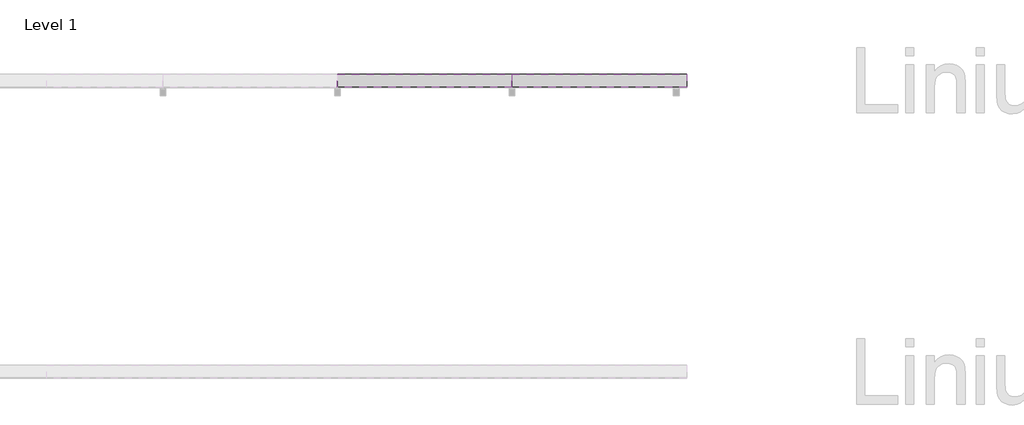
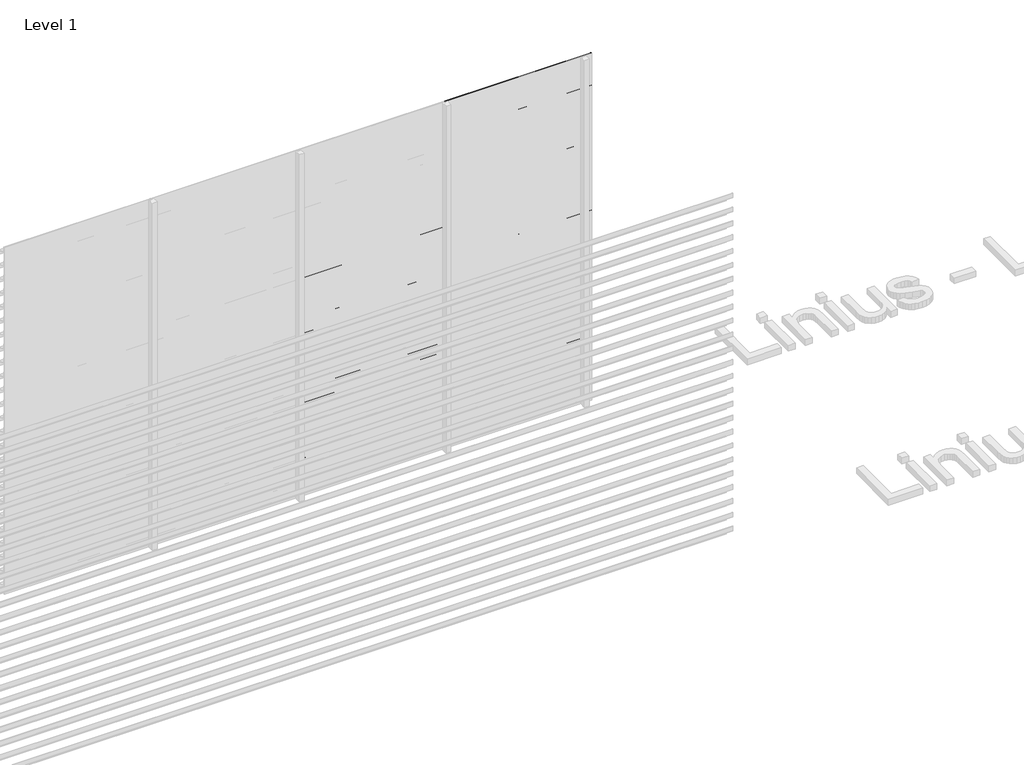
# One storey, part 23 of 46: 43 proxies.
"""IFC4 building model written with IfcOpenShell, lengths in millimetres."""

from ifc_helpers import new_model, si_unit, frame, origin, place, context, project, spatial, polyline, outline, extrude, element, save

model = new_model("IFC4")

# Units and contexts
model_context = context("Model", 3, world=origin())
ifc_project = project(units=[si_unit("LENGTHUNIT", "METRE", prefix="MILLI")], contexts=[model_context])

# Site, building, storey
site = spatial("IfcSite", under=ifc_project)
building = spatial("IfcBuilding", under=site)
storey = spatial("IfcBuildingStorey", under=building, Name="Level 1", Elevation=0.0)

# Proxies
placement = place(None, origin())
element("IfcBuildingElementProxy", 1, Name="Wall Sweeps", at=placement, inside=storey, context=model_context, shape_type="SweptSolid", body=[
    extrude(outline(polyline([(36573.0540136, 2920.0), (36573.0540136, 2880.0), (36571.0540136, 2881.349017), (36571.0540136, 2918.7258595), (36483.0540136, 2959.7609334), (36483.0540136, 3000.0), (36485.0540136, 3000.0), (36485.0540136, 2961.0350739), (36573.0540136, 2920.0)])), frame((5266.6208095, 0.0, 0.0), z_axis=(1.0, 0.0, 0.0), x_axis=(0.0, 1.0, 0.0)), (0.0, 0.0, 1.0), 1200.0000002),
])
element("IfcBuildingElementProxy", 2, Name="Wall Sweeps", at=placement, inside=storey, context=model_context, shape_type="SweptSolid", body=[
    extrude(outline(polyline([(36573.0540136, 2800.0), (36573.0540136, 2760.0), (36571.0540136, 2761.349017), (36571.0540136, 2798.7258595), (36483.0540136, 2839.7609334), (36483.0540136, 2880.0), (36485.0540136, 2880.0), (36485.0540136, 2841.0350739), (36573.0540136, 2800.0)])), frame((5266.6208095, 0.0, 0.0), z_axis=(1.0, 0.0, 0.0), x_axis=(0.0, 1.0, 0.0)), (0.0, 0.0, 1.0), 1200.0000002),
])
element("IfcBuildingElementProxy", 3, Name="Wall Sweeps", at=placement, inside=storey, context=model_context, shape_type="SweptSolid", body=[
    extrude(outline(polyline([(36573.0540136, 2680.0), (36573.0540136, 2640.0), (36571.0540136, 2641.349017), (36571.0540136, 2678.7258595), (36483.0540136, 2719.7609334), (36483.0540136, 2760.0), (36485.0540136, 2760.0), (36485.0540136, 2721.0350739), (36573.0540136, 2680.0)])), frame((5266.6208095, 0.0, 0.0), z_axis=(1.0, 0.0, 0.0), x_axis=(0.0, 1.0, 0.0)), (0.0, 0.0, 1.0), 1200.0000002),
])
element("IfcBuildingElementProxy", 4, Name="Wall Sweeps", at=placement, inside=storey, context=model_context, shape_type="SweptSolid", body=[
    extrude(outline(polyline([(36573.0540136, 2560.0), (36573.0540136, 2520.0), (36571.0540136, 2521.349017), (36571.0540136, 2558.7258595), (36483.0540136, 2599.7609334), (36483.0540136, 2640.0), (36485.0540136, 2640.0), (36485.0540136, 2601.0350739), (36573.0540136, 2560.0)])), frame((5266.6208095, 0.0, 0.0), z_axis=(1.0, 0.0, 0.0), x_axis=(0.0, 1.0, 0.0)), (0.0, 0.0, 1.0), 1200.0000002),
])
element("IfcBuildingElementProxy", 5, Name="Wall Sweeps", at=placement, inside=storey, context=model_context, shape_type="SweptSolid", body=[
    extrude(outline(polyline([(36573.0540136, 2440.0), (36573.0540136, 2400.0), (36571.0540136, 2401.349017), (36571.0540136, 2438.7258595), (36483.0540136, 2479.7609334), (36483.0540136, 2520.0), (36485.0540136, 2520.0), (36485.0540136, 2481.0350739), (36573.0540136, 2440.0)])), frame((5266.6208095, 0.0, 0.0), z_axis=(1.0, 0.0, 0.0), x_axis=(0.0, 1.0, 0.0)), (0.0, 0.0, 1.0), 1200.0000002),
])
element("IfcBuildingElementProxy", 6, Name="Wall Sweeps", at=placement, inside=storey, context=model_context, shape_type="SweptSolid", body=[
    extrude(outline(polyline([(36573.0540136, 2320.0), (36573.0540136, 2280.0), (36571.0540136, 2281.349017), (36571.0540136, 2318.7258595), (36483.0540136, 2359.7609334), (36483.0540136, 2400.0), (36485.0540136, 2400.0), (36485.0540136, 2361.0350739), (36573.0540136, 2320.0)])), frame((5266.6208095, 0.0, 0.0), z_axis=(1.0, 0.0, 0.0), x_axis=(0.0, 1.0, 0.0)), (0.0, 0.0, 1.0), 1200.0000002),
])
element("IfcBuildingElementProxy", 7, Name="Wall Sweeps", at=placement, inside=storey, context=model_context, shape_type="SweptSolid", body=[
    extrude(outline(polyline([(36573.0540136, 2200.0), (36573.0540136, 2160.0), (36571.0540136, 2161.349017), (36571.0540136, 2198.7258595), (36483.0540136, 2239.7609334), (36483.0540136, 2280.0), (36485.0540136, 2280.0), (36485.0540136, 2241.0350739), (36573.0540136, 2200.0)])), frame((5266.6208095, 0.0, 0.0), z_axis=(1.0, 0.0, 0.0), x_axis=(0.0, 1.0, 0.0)), (0.0, 0.0, 1.0), 1200.0000002),
])
element("IfcBuildingElementProxy", 8, Name="Wall Sweeps", at=placement, inside=storey, context=model_context, shape_type="SweptSolid", body=[
    extrude(outline(polyline([(36573.0540136, 2080.0), (36573.0540136, 2040.0), (36571.0540136, 2041.349017), (36571.0540136, 2078.7258595), (36483.0540136, 2119.7609334), (36483.0540136, 2160.0), (36485.0540136, 2160.0), (36485.0540136, 2121.0350739), (36573.0540136, 2080.0)])), frame((5266.6208095, 0.0, 0.0), z_axis=(1.0, 0.0, 0.0), x_axis=(0.0, 1.0, 0.0)), (0.0, 0.0, 1.0), 1200.0000002),
])
element("IfcBuildingElementProxy", 9, Name="Wall Sweeps", at=placement, inside=storey, context=model_context, shape_type="SweptSolid", body=[
    extrude(outline(polyline([(36573.0540136, 1960.0), (36573.0540136, 1920.0), (36571.0540136, 1921.349017), (36571.0540136, 1958.7258595), (36483.0540136, 1999.7609334), (36483.0540136, 2040.0), (36485.0540136, 2040.0), (36485.0540136, 2001.0350739), (36573.0540136, 1960.0)])), frame((5266.6208095, 0.0, 0.0), z_axis=(1.0, 0.0, 0.0), x_axis=(0.0, 1.0, 0.0)), (0.0, 0.0, 1.0), 1200.0000002),
])
element("IfcBuildingElementProxy", 10, Name="Wall Sweeps", at=placement, inside=storey, context=model_context, shape_type="SweptSolid", body=[
    extrude(outline(polyline([(36573.0540136, 1840.0), (36573.0540136, 1800.0), (36571.0540136, 1801.349017), (36571.0540136, 1838.7258595), (36483.0540136, 1879.7609334), (36483.0540136, 1920.0), (36485.0540136, 1920.0), (36485.0540136, 1881.0350739), (36573.0540136, 1840.0)])), frame((5266.6208095, 0.0, 0.0), z_axis=(1.0, 0.0, 0.0), x_axis=(0.0, 1.0, 0.0)), (0.0, 0.0, 1.0), 1200.0000002),
])
element("IfcBuildingElementProxy", 11, Name="Wall Sweeps", at=placement, inside=storey, context=model_context, shape_type="SweptSolid", body=[
    extrude(outline(polyline([(36573.0540136, 1720.0), (36573.0540136, 1680.0), (36571.0540136, 1681.349017), (36571.0540136, 1718.7258595), (36483.0540136, 1759.7609334), (36483.0540136, 1800.0), (36485.0540136, 1800.0), (36485.0540136, 1761.0350739), (36573.0540136, 1720.0)])), frame((5266.6208095, 0.0, 0.0), z_axis=(1.0, 0.0, 0.0), x_axis=(0.0, 1.0, 0.0)), (0.0, 0.0, 1.0), 1200.0000002),
])
element("IfcBuildingElementProxy", 12, Name="Wall Sweeps", at=placement, inside=storey, context=model_context, shape_type="SweptSolid", body=[
    extrude(outline(polyline([(36573.0540136, 1600.0), (36573.0540136, 1560.0), (36571.0540136, 1561.349017), (36571.0540136, 1598.7258595), (36483.0540136, 1639.7609334), (36483.0540136, 1680.0), (36485.0540136, 1680.0), (36485.0540136, 1641.0350739), (36573.0540136, 1600.0)])), frame((5266.6208095, 0.0, 0.0), z_axis=(1.0, 0.0, 0.0), x_axis=(0.0, 1.0, 0.0)), (0.0, 0.0, 1.0), 1200.0000002),
])
element("IfcBuildingElementProxy", 13, Name="Wall Sweeps", at=placement, inside=storey, context=model_context, shape_type="SweptSolid", body=[
    extrude(outline(polyline([(36573.0540136, 1480.0), (36573.0540136, 1440.0), (36571.0540136, 1441.349017), (36571.0540136, 1478.7258595), (36483.0540136, 1519.7609334), (36483.0540136, 1560.0), (36485.0540136, 1560.0), (36485.0540136, 1521.0350739), (36573.0540136, 1480.0)])), frame((5266.6208095, 0.0, 0.0), z_axis=(1.0, 0.0, 0.0), x_axis=(0.0, 1.0, 0.0)), (0.0, 0.0, 1.0), 1200.0000002),
])
element("IfcBuildingElementProxy", 14, Name="Wall Sweeps", at=placement, inside=storey, context=model_context, shape_type="SweptSolid", body=[
    extrude(outline(polyline([(36573.0540136, 1360.0), (36573.0540136, 1320.0), (36571.0540136, 1321.349017), (36571.0540136, 1358.7258595), (36483.0540136, 1399.7609334), (36483.0540136, 1440.0), (36485.0540136, 1440.0), (36485.0540136, 1401.0350739), (36573.0540136, 1360.0)])), frame((5266.6208095, 0.0, 0.0), z_axis=(1.0, 0.0, 0.0), x_axis=(0.0, 1.0, 0.0)), (0.0, 0.0, 1.0), 1200.0000002),
])
element("IfcBuildingElementProxy", 15, Name="Wall Sweeps", at=placement, inside=storey, context=model_context, shape_type="SweptSolid", body=[
    extrude(outline(polyline([(36573.0540136, 1240.0), (36573.0540136, 1200.0), (36571.0540136, 1201.349017), (36571.0540136, 1238.7258595), (36483.0540136, 1279.7609334), (36483.0540136, 1320.0), (36485.0540136, 1320.0), (36485.0540136, 1281.0350739), (36573.0540136, 1240.0)])), frame((5266.6208095, 0.0, 0.0), z_axis=(1.0, 0.0, 0.0), x_axis=(0.0, 1.0, 0.0)), (0.0, 0.0, 1.0), 1200.0000002),
])
element("IfcBuildingElementProxy", 16, Name="Wall Sweeps", at=placement, inside=storey, context=model_context, shape_type="SweptSolid", body=[
    extrude(outline(polyline([(36573.0540136, 1120.0), (36573.0540136, 1080.0), (36571.0540136, 1081.349017), (36571.0540136, 1118.7258595), (36483.0540136, 1159.7609334), (36483.0540136, 1200.0), (36485.0540136, 1200.0), (36485.0540136, 1161.0350739), (36573.0540136, 1120.0)])), frame((5266.6208095, 0.0, 0.0), z_axis=(1.0, 0.0, 0.0), x_axis=(0.0, 1.0, 0.0)), (0.0, 0.0, 1.0), 1200.0000002),
])
element("IfcBuildingElementProxy", 17, Name="Wall Sweeps", at=placement, inside=storey, context=model_context, shape_type="SweptSolid", body=[
    extrude(outline(polyline([(36573.0540136, 1000.0), (36573.0540136, 960.0), (36571.0540136, 961.349017), (36571.0540136, 998.7258595), (36483.0540136, 1039.7609334), (36483.0540136, 1080.0), (36485.0540136, 1080.0), (36485.0540136, 1041.0350739), (36573.0540136, 1000.0)])), frame((5266.6208095, 0.0, 0.0), z_axis=(1.0, 0.0, 0.0), x_axis=(0.0, 1.0, 0.0)), (0.0, 0.0, 1.0), 1200.0000002),
])
element("IfcBuildingElementProxy", 18, Name="Wall Sweeps", at=placement, inside=storey, context=model_context, shape_type="SweptSolid", body=[
    extrude(outline(polyline([(36573.0540136, 880.0), (36573.0540136, 840.0), (36571.0540136, 841.349017), (36571.0540136, 878.7258595), (36483.0540136, 919.7609334), (36483.0540136, 960.0), (36485.0540136, 960.0), (36485.0540136, 921.0350739), (36573.0540136, 880.0)])), frame((5266.6208095, 0.0, 0.0), z_axis=(1.0, 0.0, 0.0), x_axis=(0.0, 1.0, 0.0)), (0.0, 0.0, 1.0), 1200.0000002),
])
element("IfcBuildingElementProxy", 19, Name="Wall Sweeps", at=placement, inside=storey, context=model_context, shape_type="SweptSolid", body=[
    extrude(outline(polyline([(36573.0540136, 760.0), (36573.0540136, 720.0), (36571.0540136, 721.349017), (36571.0540136, 758.7258595), (36483.0540136, 799.7609334), (36483.0540136, 840.0), (36485.0540136, 840.0), (36485.0540136, 801.0350739), (36573.0540136, 760.0)])), frame((5266.6208095, 0.0, 0.0), z_axis=(1.0, 0.0, 0.0), x_axis=(0.0, 1.0, 0.0)), (0.0, 0.0, 1.0), 1200.0000002),
])
element("IfcBuildingElementProxy", 20, Name="Wall Sweeps", at=placement, inside=storey, context=model_context, shape_type="SweptSolid", body=[
    extrude(outline(polyline([(36573.0540136, 640.0), (36573.0540136, 600.0), (36571.0540136, 601.349017), (36571.0540136, 638.7258595), (36483.0540136, 679.7609334), (36483.0540136, 720.0), (36485.0540136, 720.0), (36485.0540136, 681.0350739), (36573.0540136, 640.0)])), frame((5266.6208095, 0.0, 0.0), z_axis=(1.0, 0.0, 0.0), x_axis=(0.0, 1.0, 0.0)), (0.0, 0.0, 1.0), 1200.0000002),
])
element("IfcBuildingElementProxy", 21, Name="Wall Sweeps", at=placement, inside=storey, context=model_context, shape_type="SweptSolid", body=[
    extrude(outline(polyline([(36573.0540136, 520.0), (36573.0540136, 480.0), (36571.0540136, 481.349017), (36571.0540136, 518.7258595), (36483.0540136, 559.7609334), (36483.0540136, 600.0), (36485.0540136, 600.0), (36485.0540136, 561.0350739), (36573.0540136, 520.0)])), frame((5266.6208095, 0.0, 0.0), z_axis=(1.0, 0.0, 0.0), x_axis=(0.0, 1.0, 0.0)), (0.0, 0.0, 1.0), 1200.0000002),
])
element("IfcBuildingElementProxy", 22, Name="Wall Sweeps", at=placement, inside=storey, context=model_context, shape_type="SweptSolid", body=[
    extrude(outline(polyline([(36573.0540136, 400.0), (36573.0540136, 360.0), (36571.0540136, 361.349017), (36571.0540136, 398.7258595), (36483.0540136, 439.7609334), (36483.0540136, 480.0), (36485.0540136, 480.0), (36485.0540136, 441.0350739), (36573.0540136, 400.0)])), frame((5266.6208095, 0.0, 0.0), z_axis=(1.0, 0.0, 0.0), x_axis=(0.0, 1.0, 0.0)), (0.0, 0.0, 1.0), 1200.0000002),
])
element("IfcBuildingElementProxy", 23, Name="Wall Sweeps", at=placement, inside=storey, context=model_context, shape_type="SweptSolid", body=[
    extrude(outline(polyline([(36573.0540136, 280.0), (36573.0540136, 240.0), (36571.0540136, 241.349017), (36571.0540136, 278.7258595), (36483.0540136, 319.7609334), (36483.0540136, 360.0), (36485.0540136, 360.0), (36485.0540136, 321.0350739), (36573.0540136, 280.0)])), frame((5266.6208095, 0.0, 0.0), z_axis=(1.0, 0.0, 0.0), x_axis=(0.0, 1.0, 0.0)), (0.0, 0.0, 1.0), 1200.0000002),
])
element("IfcBuildingElementProxy", 24, Name="Wall Sweeps", at=placement, inside=storey, context=model_context, shape_type="SweptSolid", body=[
    extrude(outline(polyline([(36573.0540136, 160.0), (36573.0540136, 120.0), (36571.0540136, 121.349017), (36571.0540136, 158.7258595), (36483.0540136, 199.7609334), (36483.0540136, 240.0), (36485.0540136, 240.0), (36485.0540136, 201.0350739), (36573.0540136, 160.0)])), frame((5266.6208095, 0.0, 0.0), z_axis=(1.0, 0.0, 0.0), x_axis=(0.0, 1.0, 0.0)), (0.0, 0.0, 1.0), 1200.0000002),
])
element("IfcBuildingElementProxy", 25, Name="Wall Sweeps", at=placement, inside=storey, context=model_context, shape_type="SweptSolid", body=[
    extrude(outline(polyline([(36573.0540136, 40.0), (36573.0540136, 0.0), (36571.0540136, 1.349017), (36571.0540136, 38.7258595), (36483.0540136, 79.7609334), (36483.0540136, 120.0), (36485.0540136, 120.0), (36485.0540136, 81.0350739), (36573.0540136, 40.0)])), frame((5266.6208095, 0.0, 0.0), z_axis=(1.0, 0.0, 0.0), x_axis=(0.0, 1.0, 0.0)), (0.0, 0.0, 1.0), 1200.0000002),
])
element("IfcBuildingElementProxy", 26, Name="Wall Sweeps", at=placement, inside=storey, context=model_context, shape_type="SweptSolid", body=[
    extrude(outline(polyline([(36573.0540136, 2080.0), (36573.0540136, 2040.0), (36571.0540136, 2041.349017), (36571.0540136, 2078.7258595), (36483.0540136, 2119.7609334), (36483.0540136, 2160.0), (36485.0540136, 2160.0), (36485.0540136, 2121.0350739), (36573.0540136, 2080.0)])), frame((4066.6208096, 0.0, 0.0), z_axis=(1.0, 0.0, 0.0), x_axis=(0.0, 1.0, 0.0)), (0.0, 0.0, 1.0), 1199.9999999),
])
element("IfcBuildingElementProxy", 27, Name="Wall Sweeps", at=placement, inside=storey, context=model_context, shape_type="SweptSolid", body=[
    extrude(outline(polyline([(36573.0540136, 1960.0), (36573.0540136, 1920.0), (36571.0540136, 1921.349017), (36571.0540136, 1958.7258595), (36483.0540136, 1999.7609334), (36483.0540136, 2040.0), (36485.0540136, 2040.0), (36485.0540136, 2001.0350739), (36573.0540136, 1960.0)])), frame((4066.6208096, 0.0, 0.0), z_axis=(1.0, 0.0, 0.0), x_axis=(0.0, 1.0, 0.0)), (0.0, 0.0, 1.0), 1199.9999999),
])
element("IfcBuildingElementProxy", 28, Name="Wall Sweeps", at=placement, inside=storey, context=model_context, shape_type="SweptSolid", body=[
    extrude(outline(polyline([(36573.0540136, 1840.0), (36573.0540136, 1800.0), (36571.0540136, 1801.349017), (36571.0540136, 1838.7258595), (36483.0540136, 1879.7609334), (36483.0540136, 1920.0), (36485.0540136, 1920.0), (36485.0540136, 1881.0350739), (36573.0540136, 1840.0)])), frame((4066.6208096, 0.0, 0.0), z_axis=(1.0, 0.0, 0.0), x_axis=(0.0, 1.0, 0.0)), (0.0, 0.0, 1.0), 1199.9999999),
])
element("IfcBuildingElementProxy", 29, Name="Wall Sweeps", at=placement, inside=storey, context=model_context, shape_type="SweptSolid", body=[
    extrude(outline(polyline([(36573.0540136, 1720.0), (36573.0540136, 1680.0), (36571.0540136, 1681.349017), (36571.0540136, 1718.7258595), (36483.0540136, 1759.7609334), (36483.0540136, 1800.0), (36485.0540136, 1800.0), (36485.0540136, 1761.0350739), (36573.0540136, 1720.0)])), frame((4066.6208096, 0.0, 0.0), z_axis=(1.0, 0.0, 0.0), x_axis=(0.0, 1.0, 0.0)), (0.0, 0.0, 1.0), 1199.9999999),
])
element("IfcBuildingElementProxy", 30, Name="Wall Sweeps", at=placement, inside=storey, context=model_context, shape_type="SweptSolid", body=[
    extrude(outline(polyline([(36573.0540136, 1600.0), (36573.0540136, 1560.0), (36571.0540136, 1561.349017), (36571.0540136, 1598.7258595), (36483.0540136, 1639.7609334), (36483.0540136, 1680.0), (36485.0540136, 1680.0), (36485.0540136, 1641.0350739), (36573.0540136, 1600.0)])), frame((4066.6208096, 0.0, 0.0), z_axis=(1.0, 0.0, 0.0), x_axis=(0.0, 1.0, 0.0)), (0.0, 0.0, 1.0), 1199.9999999),
])
element("IfcBuildingElementProxy", 31, Name="Wall Sweeps", at=placement, inside=storey, context=model_context, shape_type="SweptSolid", body=[
    extrude(outline(polyline([(36573.0540136, 1480.0), (36573.0540136, 1440.0), (36571.0540136, 1441.349017), (36571.0540136, 1478.7258595), (36483.0540136, 1519.7609334), (36483.0540136, 1560.0), (36485.0540136, 1560.0), (36485.0540136, 1521.0350739), (36573.0540136, 1480.0)])), frame((4066.6208096, 0.0, 0.0), z_axis=(1.0, 0.0, 0.0), x_axis=(0.0, 1.0, 0.0)), (0.0, 0.0, 1.0), 1199.9999999),
])
element("IfcBuildingElementProxy", 32, Name="Wall Sweeps", at=placement, inside=storey, context=model_context, shape_type="SweptSolid", body=[
    extrude(outline(polyline([(36573.0540136, 1360.0), (36573.0540136, 1320.0), (36571.0540136, 1321.349017), (36571.0540136, 1358.7258595), (36483.0540136, 1399.7609334), (36483.0540136, 1440.0), (36485.0540136, 1440.0), (36485.0540136, 1401.0350739), (36573.0540136, 1360.0)])), frame((4066.6208096, 0.0, 0.0), z_axis=(1.0, 0.0, 0.0), x_axis=(0.0, 1.0, 0.0)), (0.0, 0.0, 1.0), 1199.9999999),
])
element("IfcBuildingElementProxy", 33, Name="Wall Sweeps", at=placement, inside=storey, context=model_context, shape_type="SweptSolid", body=[
    extrude(outline(polyline([(36573.0540136, 1240.0), (36573.0540136, 1200.0), (36571.0540136, 1201.349017), (36571.0540136, 1238.7258595), (36483.0540136, 1279.7609334), (36483.0540136, 1320.0), (36485.0540136, 1320.0), (36485.0540136, 1281.0350739), (36573.0540136, 1240.0)])), frame((4066.6208096, 0.0, 0.0), z_axis=(1.0, 0.0, 0.0), x_axis=(0.0, 1.0, 0.0)), (0.0, 0.0, 1.0), 1199.9999999),
])
element("IfcBuildingElementProxy", 34, Name="Wall Sweeps", at=placement, inside=storey, context=model_context, shape_type="SweptSolid", body=[
    extrude(outline(polyline([(36573.0540136, 1120.0), (36573.0540136, 1080.0), (36571.0540136, 1081.349017), (36571.0540136, 1118.7258595), (36483.0540136, 1159.7609334), (36483.0540136, 1200.0), (36485.0540136, 1200.0), (36485.0540136, 1161.0350739), (36573.0540136, 1120.0)])), frame((4066.6208096, 0.0, 0.0), z_axis=(1.0, 0.0, 0.0), x_axis=(0.0, 1.0, 0.0)), (0.0, 0.0, 1.0), 1199.9999999),
])
element("IfcBuildingElementProxy", 35, Name="Wall Sweeps", at=placement, inside=storey, context=model_context, shape_type="SweptSolid", body=[
    extrude(outline(polyline([(36573.0540136, 1000.0), (36573.0540136, 960.0), (36571.0540136, 961.349017), (36571.0540136, 998.7258595), (36483.0540136, 1039.7609334), (36483.0540136, 1080.0), (36485.0540136, 1080.0), (36485.0540136, 1041.0350739), (36573.0540136, 1000.0)])), frame((4066.6208096, 0.0, 0.0), z_axis=(1.0, 0.0, 0.0), x_axis=(0.0, 1.0, 0.0)), (0.0, 0.0, 1.0), 1199.9999999),
])
element("IfcBuildingElementProxy", 36, Name="Wall Sweeps", at=placement, inside=storey, context=model_context, shape_type="SweptSolid", body=[
    extrude(outline(polyline([(36573.0540136, 880.0), (36573.0540136, 840.0), (36571.0540136, 841.349017), (36571.0540136, 878.7258595), (36483.0540136, 919.7609334), (36483.0540136, 960.0), (36485.0540136, 960.0), (36485.0540136, 921.0350739), (36573.0540136, 880.0)])), frame((4066.6208096, 0.0, 0.0), z_axis=(1.0, 0.0, 0.0), x_axis=(0.0, 1.0, 0.0)), (0.0, 0.0, 1.0), 1199.9999999),
])
element("IfcBuildingElementProxy", 37, Name="Wall Sweeps", at=placement, inside=storey, context=model_context, shape_type="SweptSolid", body=[
    extrude(outline(polyline([(36573.0540136, 760.0), (36573.0540136, 720.0), (36571.0540136, 721.349017), (36571.0540136, 758.7258595), (36483.0540136, 799.7609334), (36483.0540136, 840.0), (36485.0540136, 840.0), (36485.0540136, 801.0350739), (36573.0540136, 760.0)])), frame((4066.6208096, 0.0, 0.0), z_axis=(1.0, 0.0, 0.0), x_axis=(0.0, 1.0, 0.0)), (0.0, 0.0, 1.0), 1199.9999999),
])
element("IfcBuildingElementProxy", 38, Name="Wall Sweeps", at=placement, inside=storey, context=model_context, shape_type="SweptSolid", body=[
    extrude(outline(polyline([(36573.0540136, 640.0), (36573.0540136, 600.0), (36571.0540136, 601.349017), (36571.0540136, 638.7258595), (36483.0540136, 679.7609334), (36483.0540136, 720.0), (36485.0540136, 720.0), (36485.0540136, 681.0350739), (36573.0540136, 640.0)])), frame((4066.6208096, 0.0, 0.0), z_axis=(1.0, 0.0, 0.0), x_axis=(0.0, 1.0, 0.0)), (0.0, 0.0, 1.0), 1199.9999999),
])
element("IfcBuildingElementProxy", 39, Name="Wall Sweeps", at=placement, inside=storey, context=model_context, shape_type="SweptSolid", body=[
    extrude(outline(polyline([(36573.0540136, 520.0), (36573.0540136, 480.0), (36571.0540136, 481.349017), (36571.0540136, 518.7258595), (36483.0540136, 559.7609334), (36483.0540136, 600.0), (36485.0540136, 600.0), (36485.0540136, 561.0350739), (36573.0540136, 520.0)])), frame((4066.6208096, 0.0, 0.0), z_axis=(1.0, 0.0, 0.0), x_axis=(0.0, 1.0, 0.0)), (0.0, 0.0, 1.0), 1199.9999999),
])
element("IfcBuildingElementProxy", 40, Name="Wall Sweeps", at=placement, inside=storey, context=model_context, shape_type="SweptSolid", body=[
    extrude(outline(polyline([(36573.0540136, 400.0), (36573.0540136, 360.0), (36571.0540136, 361.349017), (36571.0540136, 398.7258595), (36483.0540136, 439.7609334), (36483.0540136, 480.0), (36485.0540136, 480.0), (36485.0540136, 441.0350739), (36573.0540136, 400.0)])), frame((4066.6208096, 0.0, 0.0), z_axis=(1.0, 0.0, 0.0), x_axis=(0.0, 1.0, 0.0)), (0.0, 0.0, 1.0), 1199.9999999),
])
element("IfcBuildingElementProxy", 41, Name="Wall Sweeps", at=placement, inside=storey, context=model_context, shape_type="SweptSolid", body=[
    extrude(outline(polyline([(36573.0540136, 280.0), (36573.0540136, 240.0), (36571.0540136, 241.349017), (36571.0540136, 278.7258595), (36483.0540136, 319.7609334), (36483.0540136, 360.0), (36485.0540136, 360.0), (36485.0540136, 321.0350739), (36573.0540136, 280.0)])), frame((4066.6208096, 0.0, 0.0), z_axis=(1.0, 0.0, 0.0), x_axis=(0.0, 1.0, 0.0)), (0.0, 0.0, 1.0), 1199.9999999),
])
element("IfcBuildingElementProxy", 42, Name="Wall Sweeps", at=placement, inside=storey, context=model_context, shape_type="SweptSolid", body=[
    extrude(outline(polyline([(36573.0540136, 160.0), (36573.0540136, 120.0), (36571.0540136, 121.349017), (36571.0540136, 158.7258595), (36483.0540136, 199.7609334), (36483.0540136, 240.0), (36485.0540136, 240.0), (36485.0540136, 201.0350739), (36573.0540136, 160.0)])), frame((4066.6208096, 0.0, 0.0), z_axis=(1.0, 0.0, 0.0), x_axis=(0.0, 1.0, 0.0)), (0.0, 0.0, 1.0), 1199.9999999),
])
element("IfcBuildingElementProxy", 43, Name="Wall Sweeps", at=placement, inside=storey, context=model_context, shape_type="SweptSolid", body=[
    extrude(outline(polyline([(36573.0540136, 40.0), (36573.0540136, 0.0), (36571.0540136, 1.349017), (36571.0540136, 38.7258595), (36483.0540136, 79.7609334), (36483.0540136, 120.0), (36485.0540136, 120.0), (36485.0540136, 81.0350739), (36573.0540136, 40.0)])), frame((4066.6208096, 0.0, 0.0), z_axis=(1.0, 0.0, 0.0), x_axis=(0.0, 1.0, 0.0)), (0.0, 0.0, 1.0), 1199.9999999),
])

save(model, "model.ifc")
